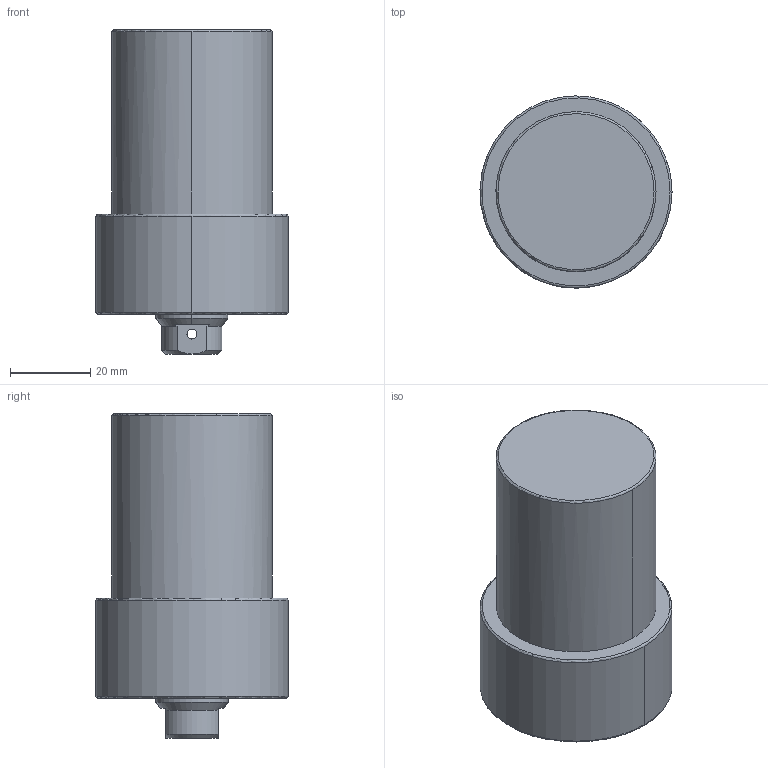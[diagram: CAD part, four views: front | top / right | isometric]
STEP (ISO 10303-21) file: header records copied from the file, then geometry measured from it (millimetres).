
FILE_DESCRIPTION((' '),'2;1');
FILE_NAME( 'TLLU-040GB-035.STEP.stp', '2025-10-24T16:37:12', (' '), ('--- Datakit www.datakit.com---'), ' Datakit CrossCadWare V2024.1 Dec 21 2023', 'Mastercam 2025', ' ');
FILE_SCHEMA(('AUTOMOTIVE_DESIGN { 1 0 10303 214 1 1 1 1 }'));
Length unit declared in the file: millimetre
Products named in the file (1): TLLU-040GB-035
Bounding box: 47.99 x 48 x 81 mm (x, y, z)
Volume: 103026.5 mm3; surface area: 14793.3 mm2
Topology: 1 solids, 1 shells, 66 faces, 200 edges, 133 vertices
Faces by surface type: cylinder 26, cone 24, plane 10, torus 6
Entity records: 3000 total; most frequent: CARTESIAN_POINT 1126, DIRECTION 428, ORIENTED_EDGE 380, EDGE_CURVE 190, AXIS2_PLACEMENT_3D 187, VERTEX_POINT 133, CIRCLE 120, EDGE_LOOP 77
